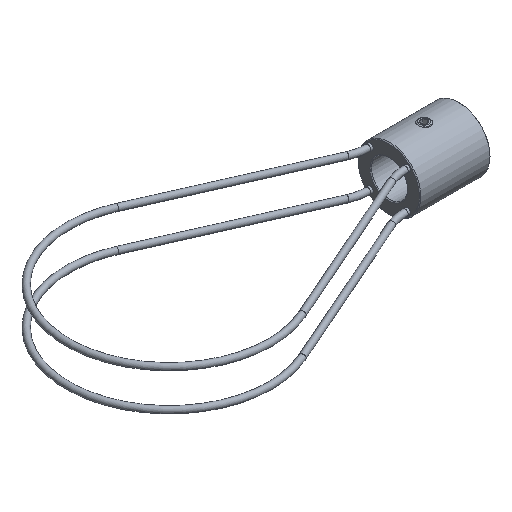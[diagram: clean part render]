
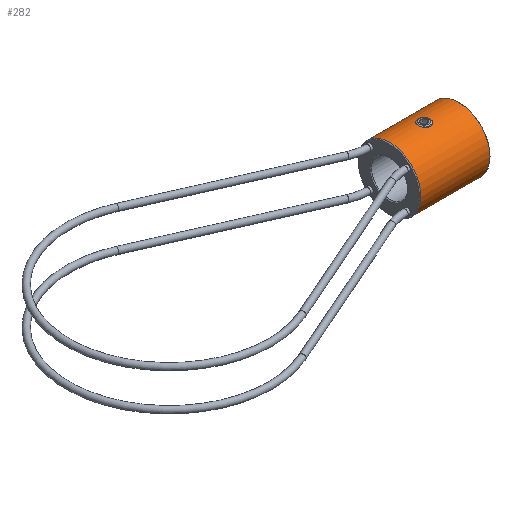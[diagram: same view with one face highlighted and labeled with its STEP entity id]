
A CAD part, isometric view. The second image highlights one B-rep face of the part: STEP entity #282.
In plain terms, the highlighted cylindrical face has radius 8 mm (diameter 16 mm), a full revolution.
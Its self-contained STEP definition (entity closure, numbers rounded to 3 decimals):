
#212=CYLINDRICAL_SURFACE('',#859,8.);
#238=CIRCLE('',#857,8.);
#239=CIRCLE('',#858,8.);
#282=ADVANCED_FACE('',(#353,#354,#355),#212,.T.);
#353=FACE_BOUND('',#435,.T.);
#354=FACE_BOUND('',#436,.T.);
#355=FACE_BOUND('',#437,.T.);
#435=EDGE_LOOP('',(#535));
#436=EDGE_LOOP('',(#536));
#437=EDGE_LOOP('',(#537,#538,#539,#540,#541,#542));
#535=ORIENTED_EDGE('',*,*,#755,.T.);
#536=ORIENTED_EDGE('',*,*,#756,.T.);
#537=ORIENTED_EDGE('',*,*,#757,.T.);
#538=ORIENTED_EDGE('',*,*,#758,.T.);
#539=ORIENTED_EDGE('',*,*,#759,.T.);
#540=ORIENTED_EDGE('',*,*,#760,.T.);
#541=ORIENTED_EDGE('',*,*,#761,.T.);
#542=ORIENTED_EDGE('',*,*,#762,.T.);
#691=VERTEX_POINT('',#1320);
#692=VERTEX_POINT('',#1322);
#693=VERTEX_POINT('',#1329);
#694=VERTEX_POINT('',#1330);
#695=VERTEX_POINT('',#1337);
#696=VERTEX_POINT('',#1344);
#697=VERTEX_POINT('',#1351);
#698=VERTEX_POINT('',#1358);
#755=EDGE_CURVE('',#691,#691,#238,.T.);
#756=EDGE_CURVE('',#692,#692,#239,.T.);
#757=EDGE_CURVE('',#693,#694,#822,.T.);
#758=EDGE_CURVE('',#694,#695,#823,.T.);
#759=EDGE_CURVE('',#695,#696,#824,.T.);
#760=EDGE_CURVE('',#696,#697,#825,.T.);
#761=EDGE_CURVE('',#697,#698,#826,.T.);
#762=EDGE_CURVE('',#698,#693,#827,.T.);
#822=B_SPLINE_CURVE_WITH_KNOTS('',3,(#1323,#1324,#1325,#1326,#1327,#1328),
 .UNSPECIFIED.,.F.,.F.,(4,2,4),(0.,0.5,1.),.UNSPECIFIED.);
#823=B_SPLINE_CURVE_WITH_KNOTS('',3,(#1331,#1332,#1333,#1334,#1335,#1336),
 .UNSPECIFIED.,.F.,.F.,(4,2,4),(0.,0.5,1.),.UNSPECIFIED.);
#824=B_SPLINE_CURVE_WITH_KNOTS('',3,(#1338,#1339,#1340,#1341,#1342,#1343),
 .UNSPECIFIED.,.F.,.F.,(4,2,4),(0.,0.5,1.),.UNSPECIFIED.);
#825=B_SPLINE_CURVE_WITH_KNOTS('',3,(#1345,#1346,#1347,#1348,#1349,#1350),
 .UNSPECIFIED.,.F.,.F.,(4,2,4),(0.,0.5,1.),.UNSPECIFIED.);
#826=B_SPLINE_CURVE_WITH_KNOTS('',3,(#1352,#1353,#1354,#1355,#1356,#1357),
 .UNSPECIFIED.,.F.,.F.,(4,2,4),(0.,0.5,1.),.UNSPECIFIED.);
#827=B_SPLINE_CURVE_WITH_KNOTS('',3,(#1359,#1360,#1361,#1362,#1363,#1364),
 .UNSPECIFIED.,.F.,.F.,(4,2,4),(0.,0.5,1.),.UNSPECIFIED.);
#857=AXIS2_PLACEMENT_3D('',#1319,#986,#987);
#858=AXIS2_PLACEMENT_3D('',#1321,#988,#989);
#859=AXIS2_PLACEMENT_3D('',#1365,#990,#991);
#986=DIRECTION('',(1.,0.,0.));
#987=DIRECTION('',(0.,0.,-1.));
#988=DIRECTION('',(-1.,0.,0.));
#989=DIRECTION('',(0.,0.,-1.));
#990=DIRECTION('',(1.,0.,0.));
#991=DIRECTION('',(0.,0.,1.));
#1319=CARTESIAN_POINT('',(40.08,0.,0.));
#1320=CARTESIAN_POINT('',(40.08,0.,-8.));
#1321=CARTESIAN_POINT('',(57.68,0.,0.));
#1322=CARTESIAN_POINT('',(57.68,0.,-8.));
#1323=CARTESIAN_POINT('',(47.399,0.006,8.));
#1324=CARTESIAN_POINT('',(47.399,0.197,8.));
#1325=CARTESIAN_POINT('',(47.43,0.376,7.993));
#1326=CARTESIAN_POINT('',(47.551,0.708,7.97));
#1327=CARTESIAN_POINT('',(47.642,0.861,7.955));
#1328=CARTESIAN_POINT('',(47.762,1.001,7.937));
#1329=CARTESIAN_POINT('',(47.389,0.003,8.));
#1330=CARTESIAN_POINT('',(47.762,1.001,7.937));
#1331=CARTESIAN_POINT('',(47.762,1.001,7.937));
#1332=CARTESIAN_POINT('',(48.049,1.336,7.895));
#1333=CARTESIAN_POINT('',(48.436,1.525,7.853));
#1334=CARTESIAN_POINT('',(49.323,1.526,7.853));
#1335=CARTESIAN_POINT('',(49.71,1.336,7.895));
#1336=CARTESIAN_POINT('',(49.997,1.002,7.937));
#1337=CARTESIAN_POINT('',(49.997,1.001,7.937));
#1338=CARTESIAN_POINT('',(49.997,1.002,7.937));
#1339=CARTESIAN_POINT('',(50.239,0.72,7.973));
#1340=CARTESIAN_POINT('',(50.36,0.386,8.));
#1341=CARTESIAN_POINT('',(50.362,-0.384,8.));
#1342=CARTESIAN_POINT('',(50.241,-0.717,7.973));
#1343=CARTESIAN_POINT('',(50.,-0.998,7.937));
#1344=CARTESIAN_POINT('',(50.,-0.998,7.938));
#1345=CARTESIAN_POINT('',(50.,-0.998,7.937));
#1346=CARTESIAN_POINT('',(49.941,-1.068,7.929));
#1347=CARTESIAN_POINT('',(49.874,-1.134,7.919));
#1348=CARTESIAN_POINT('',(49.736,-1.25,7.902));
#1349=CARTESIAN_POINT('',(49.665,-1.3,7.894));
#1350=CARTESIAN_POINT('',(49.59,-1.343,7.887));
#1351=CARTESIAN_POINT('',(49.585,-1.333,7.885));
#1352=CARTESIAN_POINT('',(49.59,-1.343,7.887));
#1353=CARTESIAN_POINT('',(49.303,-1.507,7.859));
#1354=CARTESIAN_POINT('',(48.944,-1.56,7.847));
#1355=CARTESIAN_POINT('',(48.286,-1.446,7.868));
#1356=CARTESIAN_POINT('',(47.988,-1.265,7.904));
#1357=CARTESIAN_POINT('',(47.76,-0.999,7.937));
#1358=CARTESIAN_POINT('',(47.761,-0.999,7.937));
#1359=CARTESIAN_POINT('',(47.76,-0.999,7.937));
#1360=CARTESIAN_POINT('',(47.639,-0.858,7.955));
#1361=CARTESIAN_POINT('',(47.548,-0.703,7.971));
#1362=CARTESIAN_POINT('',(47.428,-0.368,7.993));
#1363=CARTESIAN_POINT('',(47.398,-0.187,8.));
#1364=CARTESIAN_POINT('',(47.399,0.006,8.));
#1365=CARTESIAN_POINT('',(39.88,0.,0.));
